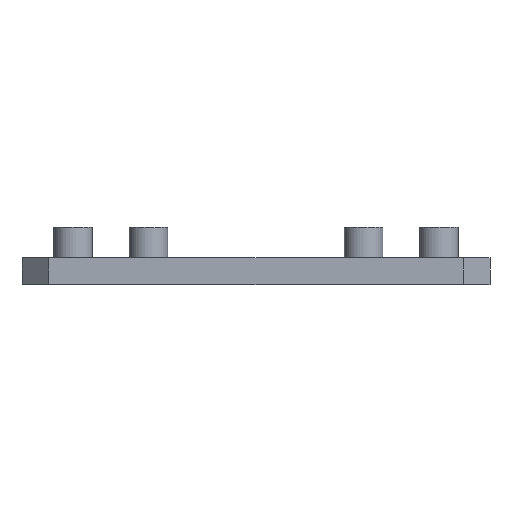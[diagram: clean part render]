
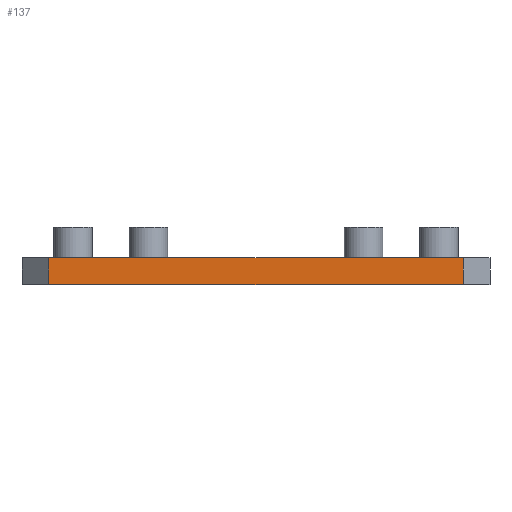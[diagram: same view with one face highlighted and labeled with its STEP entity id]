
A CAD part, front view. The second image highlights one B-rep face of the part: STEP entity #137.
In plain terms, the highlighted planar face has unit normal (0, -1, 0).
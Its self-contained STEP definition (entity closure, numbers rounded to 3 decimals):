
#103 = ORIENTED_EDGE ( 'NONE', *, *, #790, .F. ) ;
#108 = CARTESIAN_POINT ( 'NONE',  ( 40., -53., 5. ) ) ;
#135 = PLANE ( 'NONE',  #463 ) ;
#137 = ADVANCED_FACE ( 'NONE', ( #1473 ), #135, .F. ) ;
#182 = ORIENTED_EDGE ( 'NONE', *, *, #1270, .T. ) ;
#218 = ORIENTED_EDGE ( 'NONE', *, *, #2024, .T. ) ;
#273 = VERTEX_POINT ( 'NONE', #815 ) ;
#276 = CARTESIAN_POINT ( 'NONE',  ( 40., -53., 0. ) ) ;
#392 = ORIENTED_EDGE ( 'NONE', *, *, #1373, .F. ) ;
#431 = EDGE_LOOP ( 'NONE', ( #218, #392, #103, #182 ) ) ;
#463 = AXIS2_PLACEMENT_3D ( 'NONE', #1630, #648, #1299 ) ;
#514 = CARTESIAN_POINT ( 'NONE',  ( -37., -53., 5. ) ) ;
#527 = CARTESIAN_POINT ( 'NONE',  ( -37., -53., 5. ) ) ;
#648 = DIRECTION ( 'NONE',  ( 0., 1., 0. ) ) ;
#790 = EDGE_CURVE ( 'NONE', #1891, #273, #1846, .T. ) ;
#815 = CARTESIAN_POINT ( 'NONE',  ( 40., -53., 5. ) ) ;
#817 = VECTOR ( 'NONE', #1354, 1000. ) ;
#883 = DIRECTION ( 'NONE',  ( 1., 0., 0. ) ) ;
#944 = CARTESIAN_POINT ( 'NONE',  ( -37., -53., 5. ) ) ;
#1062 = VERTEX_POINT ( 'NONE', #1435 ) ;
#1143 = DIRECTION ( 'NONE',  ( 1., 0., 0. ) ) ;
#1270 = EDGE_CURVE ( 'NONE', #1891, #1062, #2019, .T. ) ;
#1276 = VECTOR ( 'NONE', #1143, 1000. ) ;
#1299 = DIRECTION ( 'NONE',  ( 0., 0., 1. ) ) ;
#1334 = LINE ( 'NONE', #1677, #1276 ) ;
#1354 = DIRECTION ( 'NONE',  ( 0., 0., -1. ) ) ;
#1373 = EDGE_CURVE ( 'NONE', #273, #1889, #1778, .T. ) ;
#1435 = CARTESIAN_POINT ( 'NONE',  ( -37., -53., 0. ) ) ;
#1473 = FACE_OUTER_BOUND ( 'NONE', #431, .T. ) ;
#1630 = CARTESIAN_POINT ( 'NONE',  ( -37., -53., 5. ) ) ;
#1677 = CARTESIAN_POINT ( 'NONE',  ( -37., -53., 0. ) ) ;
#1778 = LINE ( 'NONE', #108, #2091 ) ;
#1846 = LINE ( 'NONE', #527, #2050 ) ;
#1889 = VERTEX_POINT ( 'NONE', #276 ) ;
#1891 = VERTEX_POINT ( 'NONE', #944 ) ;
#1944 = DIRECTION ( 'NONE',  ( 0., 0., -1. ) ) ;
#2019 = LINE ( 'NONE', #514, #817 ) ;
#2024 = EDGE_CURVE ( 'NONE', #1062, #1889, #1334, .T. ) ;
#2050 = VECTOR ( 'NONE', #883, 1000. ) ;
#2091 = VECTOR ( 'NONE', #1944, 1000. ) ;
